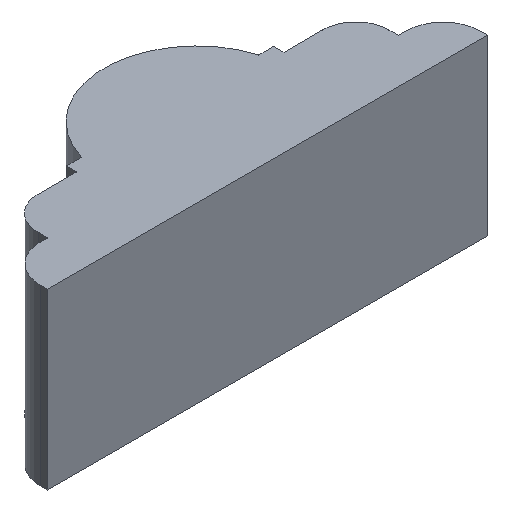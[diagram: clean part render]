
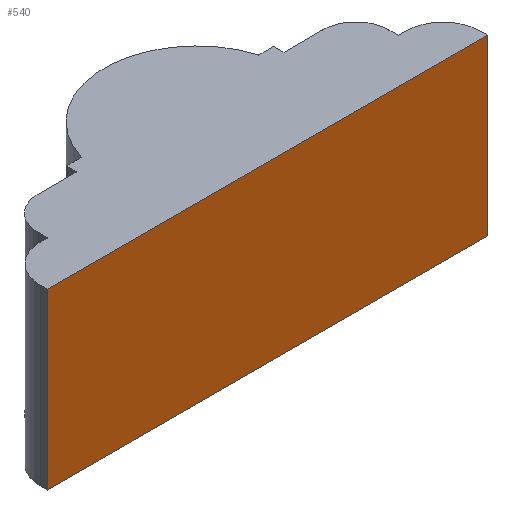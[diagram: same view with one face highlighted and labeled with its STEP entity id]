
A CAD part, isometric view. The second image highlights one B-rep face of the part: STEP entity #540.
In plain terms, the highlighted planar face has unit normal (0, -1, 0).
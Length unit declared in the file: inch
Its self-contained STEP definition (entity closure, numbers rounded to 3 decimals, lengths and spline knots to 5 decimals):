
#3 = LINE ( 'NONE', #537, #374 ) ;
#5 = DIRECTION ( 'NONE',  ( 0., 0., 1. ) ) ;
#24 = DIRECTION ( 'NONE',  ( 1., 0., 0. ) ) ;
#46 = ORIENTED_EDGE ( 'NONE', *, *, #222, .T. ) ;
#138 = EDGE_CURVE ( 'NONE', #421, #244, #3, .T. ) ;
#155 = VERTEX_POINT ( 'NONE', #213 ) ;
#186 = ORIENTED_EDGE ( 'NONE', *, *, #550, .F. ) ;
#213 = CARTESIAN_POINT ( 'NONE',  ( 1.2655, 0., -1. ) ) ;
#222 = EDGE_CURVE ( 'NONE', #155, #244, #611, .T. ) ;
#244 = VERTEX_POINT ( 'NONE', #559 ) ;
#255 = CARTESIAN_POINT ( 'NONE',  ( -1.2655, 0., -1. ) ) ;
#276 = CARTESIAN_POINT ( 'NONE',  ( 1.2655, 0., -1. ) ) ;
#334 = VECTOR ( 'NONE', #5, 39.37008 ) ;
#347 = LINE ( 'NONE', #467, #591 ) ;
#356 = DIRECTION ( 'NONE',  ( 1., 0., 0. ) ) ;
#358 = VERTEX_POINT ( 'NONE', #524 ) ;
#374 = VECTOR ( 'NONE', #708, 39.37008 ) ;
#382 = ORIENTED_EDGE ( 'NONE', *, *, #594, .T. ) ;
#407 = DIRECTION ( 'NONE',  ( 0., 0., 1. ) ) ;
#421 = VERTEX_POINT ( 'NONE', #479 ) ;
#467 = CARTESIAN_POINT ( 'NONE',  ( -1.2655, 0., -1. ) ) ;
#479 = CARTESIAN_POINT ( 'NONE',  ( -1.2655, 0., 0. ) ) ;
#518 = LINE ( 'NONE', #255, #684 ) ;
#524 = CARTESIAN_POINT ( 'NONE',  ( -1.2655, 0., -1. ) ) ;
#537 = CARTESIAN_POINT ( 'NONE',  ( -1.2655, 0., 0. ) ) ;
#540 = ADVANCED_FACE ( 'NONE', ( #642 ), #573, .T. ) ;
#546 = EDGE_LOOP ( 'NONE', ( #562, #186, #382, #46 ) ) ;
#550 = EDGE_CURVE ( 'NONE', #358, #421, #347, .T. ) ;
#559 = CARTESIAN_POINT ( 'NONE',  ( 1.2655, 0., 0. ) ) ;
#562 = ORIENTED_EDGE ( 'NONE', *, *, #138, .F. ) ;
#565 = AXIS2_PLACEMENT_3D ( 'NONE', #578, #686, #356 ) ;
#573 = PLANE ( 'NONE',  #565 ) ;
#578 = CARTESIAN_POINT ( 'NONE',  ( -1.2655, 0., -1. ) ) ;
#591 = VECTOR ( 'NONE', #407, 39.37008 ) ;
#594 = EDGE_CURVE ( 'NONE', #358, #155, #518, .T. ) ;
#611 = LINE ( 'NONE', #276, #334 ) ;
#642 = FACE_OUTER_BOUND ( 'NONE', #546, .T. ) ;
#684 = VECTOR ( 'NONE', #24, 39.37008 ) ;
#686 = DIRECTION ( 'NONE',  ( 0., -1., 0. ) ) ;
#708 = DIRECTION ( 'NONE',  ( 1., 0., 0. ) ) ;
